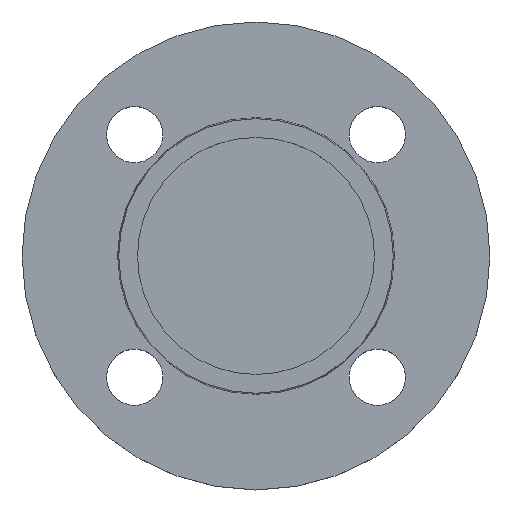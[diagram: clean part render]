
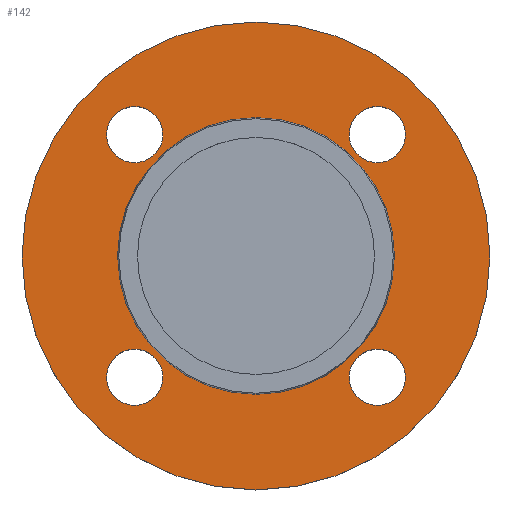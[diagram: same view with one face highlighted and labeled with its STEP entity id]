
A CAD part, top view. The second image highlights one B-rep face of the part: STEP entity #142.
In plain terms, the highlighted planar face has unit normal (0, 0, 1).
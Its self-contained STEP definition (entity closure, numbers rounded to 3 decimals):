
#5 = CARTESIAN_POINT ( 'NONE',  ( -38.891, -38.891, -2. ) ) ;
#8 = DIRECTION ( 'NONE',  ( 0., 0., -1. ) ) ;
#10 = DIRECTION ( 'NONE',  ( 1., 0., 0. ) ) ;
#17 = DIRECTION ( 'NONE',  ( -1., 0., 0. ) ) ;
#19 = DIRECTION ( 'NONE',  ( 0., 0., -1. ) ) ;
#22 = CARTESIAN_POINT ( 'NONE',  ( 38.891, -38.891, -2. ) ) ;
#24 = DIRECTION ( 'NONE',  ( 0., 0., -1. ) ) ;
#26 = CIRCLE ( 'NONE', #308, 9. ) ;
#31 = CARTESIAN_POINT ( 'NONE',  ( 0., 0., -2. ) ) ;
#38 = DIRECTION ( 'NONE',  ( -1., 0., 0. ) ) ;
#39 = AXIS2_PLACEMENT_3D ( 'NONE', #697, #670, #265 ) ;
#41 = DIRECTION ( 'NONE',  ( 0., 0., -1. ) ) ;
#42 = CARTESIAN_POINT ( 'NONE',  ( 0., 0., -2. ) ) ;
#73 = AXIS2_PLACEMENT_3D ( 'NONE', #31, #19, #17 ) ;
#84 = EDGE_CURVE ( 'NONE', #360, #365, #300, .T. ) ;
#97 = EDGE_CURVE ( 'NONE', #669, #666, #825, .T. ) ;
#114 = CARTESIAN_POINT ( 'NONE',  ( 75., 0., -2. ) ) ;
#115 = CARTESIAN_POINT ( 'NONE',  ( -75., 0., -2. ) ) ;
#116 = CARTESIAN_POINT ( 'NONE',  ( 47.891, 38.891, -2. ) ) ;
#138 = DIRECTION ( 'NONE',  ( 0., 0., -1. ) ) ;
#140 = DIRECTION ( 'NONE',  ( 1., 0., 0. ) ) ;
#142 = ADVANCED_FACE ( 'NONE', ( #774, #775, #776, #778, #779, #781 ), #782, .T. ) ;
#148 = CARTESIAN_POINT ( 'NONE',  ( 29.891, -38.891, -2. ) ) ;
#154 = AXIS2_PLACEMENT_3D ( 'NONE', #273, #274, #282 ) ;
#157 = CIRCLE ( 'NONE', #653, 9. ) ;
#167 = EDGE_CURVE ( 'NONE', #460, #499, #620, .T. ) ;
#171 = CARTESIAN_POINT ( 'NONE',  ( 47.891, -38.891, -2. ) ) ;
#187 = CIRCLE ( 'NONE', #39, 75. ) ;
#189 = CIRCLE ( 'NONE', #701, 9. ) ;
#219 = CARTESIAN_POINT ( 'NONE',  ( -44.353, 0., -2. ) ) ;
#229 = EDGE_CURVE ( 'NONE', #499, #460, #189, .T. ) ;
#234 = EDGE_CURVE ( 'NONE', #630, #613, #26, .T. ) ;
#240 = DIRECTION ( 'NONE',  ( 0., 0., -1. ) ) ;
#242 = DIRECTION ( 'NONE',  ( 1., 0., 0. ) ) ;
#243 = AXIS2_PLACEMENT_3D ( 'NONE', #784, #785, #786 ) ;
#247 = CARTESIAN_POINT ( 'NONE',  ( 38.891, -38.891, -2. ) ) ;
#250 = CARTESIAN_POINT ( 'NONE',  ( -29.891, -38.891, -2. ) ) ;
#263 = CIRCLE ( 'NONE', #505, 44.353 ) ;
#265 = DIRECTION ( 'NONE',  ( -1., 0., 0. ) ) ;
#273 = CARTESIAN_POINT ( 'NONE',  ( 38.891, 38.891, -2. ) ) ;
#274 = DIRECTION ( 'NONE',  ( 0., 0., -1. ) ) ;
#277 = EDGE_CURVE ( 'NONE', #365, #360, #338, .T. ) ;
#282 = DIRECTION ( 'NONE',  ( 1., 0., 0. ) ) ;
#293 = DIRECTION ( 'NONE',  ( 1., 0., 0. ) ) ;
#297 = CARTESIAN_POINT ( 'NONE',  ( -38.891, 38.891, -2. ) ) ;
#299 = EDGE_CURVE ( 'NONE', #358, #663, #683, .T. ) ;
#300 = CIRCLE ( 'NONE', #408, 9. ) ;
#305 = CIRCLE ( 'NONE', #73, 44.353 ) ;
#308 = AXIS2_PLACEMENT_3D ( 'NONE', #22, #24, #293 ) ;
#325 = EDGE_CURVE ( 'NONE', #663, #358, #157, .T. ) ;
#338 = CIRCLE ( 'NONE', #522, 9. ) ;
#346 = AXIS2_PLACEMENT_3D ( 'NONE', #247, #240, #242 ) ;
#351 = EDGE_LOOP ( 'NONE', ( #483, #487 ) ) ;
#357 = CARTESIAN_POINT ( 'NONE',  ( 38.891, 38.891, -2. ) ) ;
#358 = VERTEX_POINT ( 'NONE', #541 ) ;
#359 = DIRECTION ( 'NONE',  ( 0., 0., -1. ) ) ;
#360 = VERTEX_POINT ( 'NONE', #558 ) ;
#362 = EDGE_LOOP ( 'NONE', ( #470, #471 ) ) ;
#365 = VERTEX_POINT ( 'NONE', #565 ) ;
#374 = DIRECTION ( 'NONE',  ( 1., 0., 0. ) ) ;
#381 = VERTEX_POINT ( 'NONE', #590 ) ;
#404 = AXIS2_PLACEMENT_3D ( 'NONE', #743, #745, #750 ) ;
#408 = AXIS2_PLACEMENT_3D ( 'NONE', #740, #741, #742 ) ;
#415 = EDGE_CURVE ( 'NONE', #613, #630, #479, .T. ) ;
#427 = EDGE_LOOP ( 'NONE', ( #476, #478 ) ) ;
#460 = VERTEX_POINT ( 'NONE', #250 ) ;
#470 = ORIENTED_EDGE ( 'NONE', *, *, #415, .T. ) ;
#471 = ORIENTED_EDGE ( 'NONE', *, *, #234, .T. ) ;
#476 = ORIENTED_EDGE ( 'NONE', *, *, #167, .T. ) ;
#478 = ORIENTED_EDGE ( 'NONE', *, *, #229, .T. ) ;
#479 = CIRCLE ( 'NONE', #346, 9. ) ;
#480 = EDGE_CURVE ( 'NONE', #666, #669, #187, .T. ) ;
#481 = ORIENTED_EDGE ( 'NONE', *, *, #84, .T. ) ;
#482 = ORIENTED_EDGE ( 'NONE', *, *, #277, .T. ) ;
#483 = ORIENTED_EDGE ( 'NONE', *, *, #325, .T. ) ;
#487 = ORIENTED_EDGE ( 'NONE', *, *, #299, .T. ) ;
#488 = ORIENTED_EDGE ( 'NONE', *, *, #824, .T. ) ;
#490 = ORIENTED_EDGE ( 'NONE', *, *, #808, .T. ) ;
#494 = VERTEX_POINT ( 'NONE', #219 ) ;
#499 = VERTEX_POINT ( 'NONE', #702 ) ;
#505 = AXIS2_PLACEMENT_3D ( 'NONE', #42, #41, #38 ) ;
#522 = AXIS2_PLACEMENT_3D ( 'NONE', #297, #138, #140 ) ;
#534 = EDGE_LOOP ( 'NONE', ( #649, #618 ) ) ;
#541 = CARTESIAN_POINT ( 'NONE',  ( 29.891, 38.891, -2. ) ) ;
#558 = CARTESIAN_POINT ( 'NONE',  ( -29.891, 38.891, -2. ) ) ;
#565 = CARTESIAN_POINT ( 'NONE',  ( -47.891, 38.891, -2. ) ) ;
#569 = AXIS2_PLACEMENT_3D ( 'NONE', #796, #798, #799 ) ;
#590 = CARTESIAN_POINT ( 'NONE',  ( 44.353, 0., -2. ) ) ;
#606 = EDGE_LOOP ( 'NONE', ( #481, #482 ) ) ;
#613 = VERTEX_POINT ( 'NONE', #171 ) ;
#618 = ORIENTED_EDGE ( 'NONE', *, *, #480, .F. ) ;
#620 = CIRCLE ( 'NONE', #569, 9. ) ;
#630 = VERTEX_POINT ( 'NONE', #148 ) ;
#649 = ORIENTED_EDGE ( 'NONE', *, *, #97, .F. ) ;
#653 = AXIS2_PLACEMENT_3D ( 'NONE', #357, #359, #374 ) ;
#663 = VERTEX_POINT ( 'NONE', #116 ) ;
#666 = VERTEX_POINT ( 'NONE', #115 ) ;
#669 = VERTEX_POINT ( 'NONE', #114 ) ;
#670 = DIRECTION ( 'NONE',  ( 0., 0., -1. ) ) ;
#675 = EDGE_LOOP ( 'NONE', ( #488, #490 ) ) ;
#683 = CIRCLE ( 'NONE', #154, 9. ) ;
#697 = CARTESIAN_POINT ( 'NONE',  ( 0., 0., -2. ) ) ;
#701 = AXIS2_PLACEMENT_3D ( 'NONE', #5, #8, #10 ) ;
#702 = CARTESIAN_POINT ( 'NONE',  ( -47.891, -38.891, -2. ) ) ;
#740 = CARTESIAN_POINT ( 'NONE',  ( -38.891, 38.891, -2. ) ) ;
#741 = DIRECTION ( 'NONE',  ( 0., 0., -1. ) ) ;
#742 = DIRECTION ( 'NONE',  ( 1., 0., 0. ) ) ;
#743 = CARTESIAN_POINT ( 'NONE',  ( 0., 0., -2. ) ) ;
#745 = DIRECTION ( 'NONE',  ( 0., 0., -1. ) ) ;
#750 = DIRECTION ( 'NONE',  ( -1., 0., 0. ) ) ;
#774 = FACE_BOUND ( 'NONE', #362, .T. ) ;
#775 = FACE_BOUND ( 'NONE', #427, .T. ) ;
#776 = FACE_BOUND ( 'NONE', #606, .T. ) ;
#778 = FACE_BOUND ( 'NONE', #351, .T. ) ;
#779 = FACE_BOUND ( 'NONE', #675, .T. ) ;
#781 = FACE_OUTER_BOUND ( 'NONE', #534, .T. ) ;
#782 = PLANE ( 'NONE',  #243 ) ;
#784 = CARTESIAN_POINT ( 'NONE',  ( 44.353, 0., -2. ) ) ;
#785 = DIRECTION ( 'NONE',  ( 0., 0., 1. ) ) ;
#786 = DIRECTION ( 'NONE',  ( 1., 0., 0. ) ) ;
#796 = CARTESIAN_POINT ( 'NONE',  ( -38.891, -38.891, -2. ) ) ;
#798 = DIRECTION ( 'NONE',  ( 0., 0., -1. ) ) ;
#799 = DIRECTION ( 'NONE',  ( 1., 0., 0. ) ) ;
#808 = EDGE_CURVE ( 'NONE', #381, #494, #263, .T. ) ;
#824 = EDGE_CURVE ( 'NONE', #494, #381, #305, .T. ) ;
#825 = CIRCLE ( 'NONE', #404, 75. ) ;
